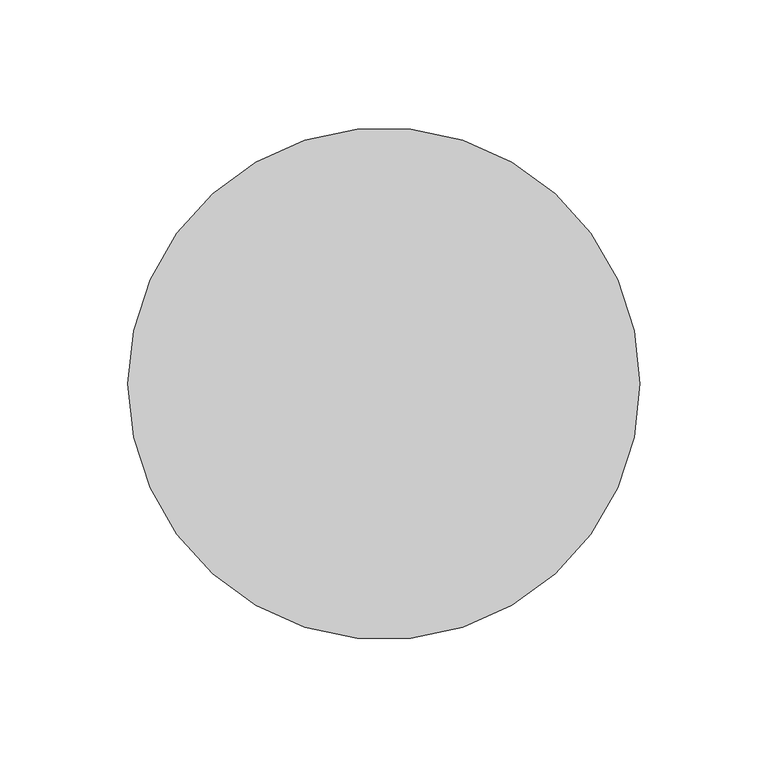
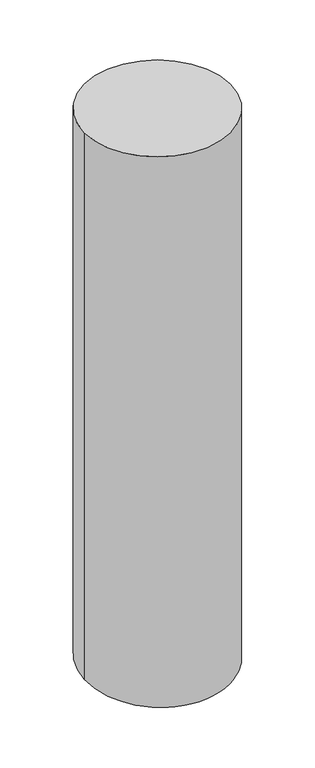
"""IFC4 building model written with IfcOpenShell, lengths in millimetres: member geometry, 矩形竖梃 : 圆瓦."""

import ifcopenshell
import ifcopenshell.guid

model = None  # the IFC model being written
_history = None  # IfcOwnerHistory: only IFC2X3 demands one
_inside = {}  # id of a spatial element -> (the spatial element, [elements in it])
_under = {}  # id of a project, library or spatial element -> (it, [spatial elements below it])
_declared = {}  # id of a project -> (the project, [libraries it declares])
_typed = {}  # id of a type object -> (the type object, [elements of that type])
_made_of = {}  # id of a material, layer set ... -> (it, [elements and type objects made of it])


def new_model(schema):
    """Start an empty IFC model of exactly this schema.

    Asked for "IFC4X3", IfcOpenShell would pick the latest addendum, in which some entities
    have other attributes; the version numbers below select the first issue.
    IFC2X3 requires an IfcOwnerHistory on every rooted entity: one is made here for all.
    """
    global model, _history
    if schema == "IFC4X3":
        model = ifcopenshell.file(schema_version=(4, 3, 0, 0))
    else:
        model = ifcopenshell.file(schema=schema)
    _inside.clear()
    _under.clear()
    _declared.clear()
    _typed.clear()
    _made_of.clear()
    _history = None
    if model.schema == "IFC2X3":
        org = make("IfcOrganization", Name="unknown")
        user = make(
            "IfcPersonAndOrganization",
            ThePerson=make("IfcPerson", FamilyName="unknown"),
            TheOrganization=org,
        )
        app = make(
            "IfcApplication",
            ApplicationDeveloper=org,
            Version="unknown",
            ApplicationFullName="unknown",
            ApplicationIdentifier="unknown",
        )
        _history = make(
            "IfcOwnerHistory",
            OwningUser=user,
            OwningApplication=app,
            ChangeAction="ADDED",
            CreationDate=0,
        )
    return model


def make(cls, **values):
    """One entity of the class cls with the attributes given. An attribute that is None is left unset."""
    return model.create_entity(
        cls, **{name: value for name, value in values.items() if value is not None}
    )


def rooted(cls, **values):
    """An entity with a GlobalId (a new one), such as an element, a storey or a relation."""
    return make(cls, GlobalId=ifcopenshell.guid.new(), OwnerHistory=_history, **values)


def si_unit(unit_type, name, prefix=None):
    """IfcSIUnit, for example si_unit("LENGTHUNIT", "METRE", prefix="MILLI")."""
    return make("IfcSIUnit", UnitType=unit_type, Prefix=prefix, Name=name)


def assignment(units):
    """IfcUnitAssignment: the units of a project."""
    return None if units is None else make("IfcUnitAssignment", Units=units)


def point(xyz):
    """IfcCartesianPoint."""
    return None if xyz is None else make("IfcCartesianPoint", Coordinates=xyz)


def direction(xyz):
    """IfcDirection."""
    return None if xyz is None else make("IfcDirection", DirectionRatios=xyz)


def frame(location, z_axis=None, x_axis=None):
    """IfcAxis2Placement3D, a coordinate frame: its origin and axes. An axis left out is left unset."""
    return make(
        "IfcAxis2Placement3D",
        Location=point(location),
        Axis=direction(z_axis),
        RefDirection=direction(x_axis),
    )


def origin():
    """The frame at (0, 0, 0) with its axes left unset."""
    return frame((0.0, 0.0, 0.0))


def origin_with_axes():
    """The frame at (0, 0, 0) with the z axis (0, 0, 1) and the x axis (1, 0, 0) written out."""
    return frame((0.0, 0.0, 0.0), z_axis=(0.0, 0.0, 1.0), x_axis=(1.0, 0.0, 0.0))


def place(relative_to, where):
    """IfcLocalPlacement: puts the frame where relative to a parent placement (None: the world)."""
    return make(
        "IfcLocalPlacement", PlacementRelTo=relative_to, RelativePlacement=where
    )


def context(
    kind, dimensions, precision=None, world=None, true_north=None, identifier=None
):
    """IfcGeometricRepresentationContext, for example the 3D "Model" context."""
    return make(
        "IfcGeometricRepresentationContext",
        ContextIdentifier=identifier,
        ContextType=kind,
        CoordinateSpaceDimension=dimensions,
        Precision=precision,
        WorldCoordinateSystem=world,
        TrueNorth=true_north,
    )


def project(units=None, contexts=None):
    """IfcProject with its units and contexts."""
    return rooted(
        "IfcProject",
        Name="project",
        RepresentationContexts=contexts,
        UnitsInContext=assignment(units),
    )


def spatial(cls, under=None, at=None, **own):
    """A site, building, storey or space (cls), placed at a placement, below another one or the project."""
    s = rooted(cls, ObjectPlacement=at, **own)
    if under is not None:
        _under.setdefault(under.id(), (under, []))[1].append(s)
    return s


def circle_curve(where, radius):
    """IfcCircle in the frame where."""
    return make("IfcCircle", Position=where, Radius=radius)


def ellipse_curve(where, semi_axis1, semi_axis2):
    """IfcEllipse in the frame where."""
    return make(
        "IfcEllipse", Position=where, SemiAxis1=semi_axis1, SemiAxis2=semi_axis2
    )


def shape(context_of_items, identifier, shape_type, items):
    """IfcShapeRepresentation: the items that make up one representation, for example the "Body"."""
    return make(
        "IfcShapeRepresentation",
        ContextOfItems=context_of_items,
        RepresentationIdentifier=identifier,
        RepresentationType=shape_type,
        Items=items,
    )


def source(mapping_origin, context_of_items, identifier, shape_type, items):
    """IfcRepresentationMap: a shape defined once, which mapped items show again and again."""
    return make(
        "IfcRepresentationMap",
        MappingOrigin=mapping_origin,
        MappedRepresentation=shape(context_of_items, identifier, shape_type, items),
    )


def transform(
    local_origin,
    x_axis=None,
    y_axis=None,
    z_axis=None,
    scale=None,
    scale2=None,
    scale3=None,
    uniform=True,
):
    """IfcCartesianTransformationOperator3D, or its non-uniform kind. x_axis, y_axis, z_axis: its Axis1, 2, 3."""
    if uniform:
        return make(
            "IfcCartesianTransformationOperator3D",
            Axis1=direction(x_axis),
            Axis2=direction(y_axis),
            LocalOrigin=point(local_origin),
            Scale=scale,
            Axis3=direction(z_axis),
        )
    return make(
        "IfcCartesianTransformationOperator3DnonUniform",
        Axis1=direction(x_axis),
        Axis2=direction(y_axis),
        LocalOrigin=point(local_origin),
        Scale=scale,
        Axis3=direction(z_axis),
        Scale2=scale2,
        Scale3=scale3,
    )


def mapped(mapping_source, mapping_target):
    """IfcMappedItem: shows the shape of a source again, moved by a transform."""
    return make(
        "IfcMappedItem", MappingSource=mapping_source, MappingTarget=mapping_target
    )


def made_of(thing, what):
    """Note that an element or type object is made of a material, layer set ...; save() writes the relation."""
    if what is not None:
        _made_of.setdefault(what.id(), (what, []))[1].append(thing)
    return thing


def element(
    cls,
    number,
    at=None,
    inside=None,
    cuts=None,
    type_object=None,
    material=None,
    context=None,
    identifier="Body",
    shape_type=None,
    held_by="IfcProductDefinitionShape",
    body=None,
    shapes=None,
    **own,
):
    """One element of the class cls, such as IfcWall. Its Tag is "e" and its number.

    at: its placement. inside: the storey or other place that contains it. cuts: it is an
    opening in that element (IfcRelVoidsElement). A single representation is given by context,
    identifier, shape_type and body (its items); several are given by shapes. held_by: the class
    of the entity that holds the representations. save() writes the other relations.
    """
    e = rooted(cls, Tag="e%d" % number, ObjectPlacement=at, **own)
    if body is not None:
        shapes = [shape(context, identifier, shape_type, body)]
    if shapes is not None:
        e.Representation = make(held_by, Representations=shapes)
    if inside is not None:
        _inside.setdefault(inside.id(), (inside, []))[1].append(e)
    if cuts is not None:
        rooted(
            "IfcRelVoidsElement", RelatingBuildingElement=cuts, RelatedOpeningElement=e
        )
    if type_object is not None:
        _typed.setdefault(type_object.id(), (type_object, []))[1].append(e)
    return made_of(e, material)


def aggregate(whole, parts):
    """IfcRelAggregates: a whole, such as a stair, and the parts it consists of."""
    return rooted("IfcRelAggregates", RelatingObject=whole, RelatedObjects=parts)


def save(model, path):
    """Write the relations noted so far, then the file.

    IfcRelAggregates (storeys below a building ...), IfcRelContainedInSpatialStructure (elements
    in a storey), IfcRelDefinesByType, IfcRelAssociatesMaterial and IfcRelDeclares: one each for
    every whole, place, type object, material and project.
    """
    for whole, parts in _under.values():
        aggregate(whole, parts)
    for where, things in _inside.values():
        rooted(
            "IfcRelContainedInSpatialStructure",
            RelatedElements=things,
            RelatingStructure=where,
        )
    for kind, things in _typed.values():
        rooted("IfcRelDefinesByType", RelatedObjects=things, RelatingType=kind)
    for what, things in _made_of.values():
        rooted("IfcRelAssociatesMaterial", RelatedObjects=things, RelatingMaterial=what)
    for by, libraries in _declared.values():
        rooted("IfcRelDeclares", RelatingContext=by, RelatedDefinitions=libraries)
    model.write(path)


def plane_surface(at):
    """IfcPlane: the flat surface through the origin of the frame at, square to its z axis."""
    return make("IfcPlane", Position=at)


def cylinder_surface(at, radius):
    """IfcCylindricalSurface: all points at the distance radius from the z axis of the frame at."""
    return make("IfcCylindricalSurface", Position=at, Radius=radius)


def advanced_brep(points, edges, surfaces, faces):
    """IfcAdvancedBrep: a solid bounded by faces that lie on surfaces and meet in shared edges.

    An edge is (start, end): straight between two places in points (the first is 0);
    or (start, end, curve); or (start, end, curve, False) where it runs against its curve.
    A face is (place in surfaces, loops), or (place, loops, False) where it looks against
    its surface's normal. A loop lists edges by number (the first is 1), with a minus sign
    where the edge is run from its end to its start. The first loop is the outer one.
    """
    corners = [point(p) for p in points]
    vertices = [make("IfcVertexPoint", VertexGeometry=c) for c in corners]
    made = []
    for start, end, *more in edges:
        made.append(
            make(
                "IfcEdgeCurve",
                EdgeStart=vertices[start],
                EdgeEnd=vertices[end],
                EdgeGeometry=more[0] if more else make("IfcPolyline", Points=[corners[start], corners[end]]),
                SameSense=more[1] if len(more) > 1 else True,
            )
        )
    hull = []
    for where, loops, *sense in faces:
        bounds = []
        for j, loop in enumerate(loops):
            ring = [make("IfcOrientedEdge", EdgeElement=made[abs(k) - 1], Orientation=k > 0) for k in loop]
            bounds.append(
                make(
                    "IfcFaceOuterBound" if j == 0 else "IfcFaceBound",
                    Bound=make("IfcEdgeLoop", EdgeList=ring),
                    Orientation=True,
                )
            )
        hull.append(make("IfcAdvancedFace", Bounds=bounds, FaceSurface=surfaces[where], SameSense=sense[0] if sense else True))
    return make("IfcAdvancedBrep", Outer=make("IfcClosedShell", CfsFaces=hull))


def member_28539939(model_context):
    return source(origin(), model_context, "Body", "AdvancedBrep", [
        advanced_brep(
        [(100.0, 0.0, 0.0), (-100.0, 0.0, 0.0), (100.0, 0.0, -790.1124317), (-100.0, 0.0, -790.1124317)],
        [
            (0, 1, circle_curve(origin_with_axes(), 100.0)),
            (1, 0, circle_curve(origin_with_axes(), 100.0)),
            (0, 2),
            (2, 3, ellipse_curve(frame((0.0, 0.0, -790.1124317), z_axis=(0.0, -0.06767279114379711, 0.9977075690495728), x_axis=(0.0, 0.9977075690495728, 0.06767279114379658)), 100.2297698, 100.0)),
            (3, 1),
            (3, 2, ellipse_curve(frame((0.0, 0.0, -790.1124317), z_axis=(0.0, -0.06767279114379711, 0.9977075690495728), x_axis=(0.0, 0.9977075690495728, 0.06767279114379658)), 100.2297698, 100.0)),
        ],
        [
            plane_surface(frame((0.0, -100.0, 0.0), z_axis=(0.0, 0.0, 1.0), x_axis=(-1.0, 0.0, 0.0))),
            cylinder_surface(origin_with_axes(), 100.0),
            plane_surface(frame((-304.8, 0.0, -790.1124317), z_axis=(0.0, 0.06767279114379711, -0.9977075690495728), x_axis=(0.0, 0.9977075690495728, 0.06767279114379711))),
        ],
        [
            (0, [[1, 2]]),
            (1, [[-1, 3, 4, 5]]),
            (1, [[-2, -5, 6, -3]]),
            (2, [[-6, -4]]),
        ],
    ),
    ])


if __name__ == "__main__":
    model = new_model("IFC4")
    model_context = context("Model", 3, world=origin())
    ifc_project = project(units=[si_unit("LENGTHUNIT", "METRE", prefix="MILLI")], contexts=[model_context])
    site = spatial("IfcSite", under=ifc_project)
    building = spatial("IfcBuilding", under=site)
    placement = place(None, origin())
    member_shape = member_28539939(model_context)
    element("IfcMember", 1, ObjectType="矩形竖梃 : 圆瓦", at=placement, inside=building, context=model_context, shape_type="MappedRepresentation", body=[
        mapped(member_shape, transform((0.0, 0.0, 0.0), x_axis=(1.0, 0.0, 0.0), y_axis=(0.0, 1.0, 0.0), z_axis=(0.0, 0.0, 1.0))),
    ])
    save(model, "model.ifc")
